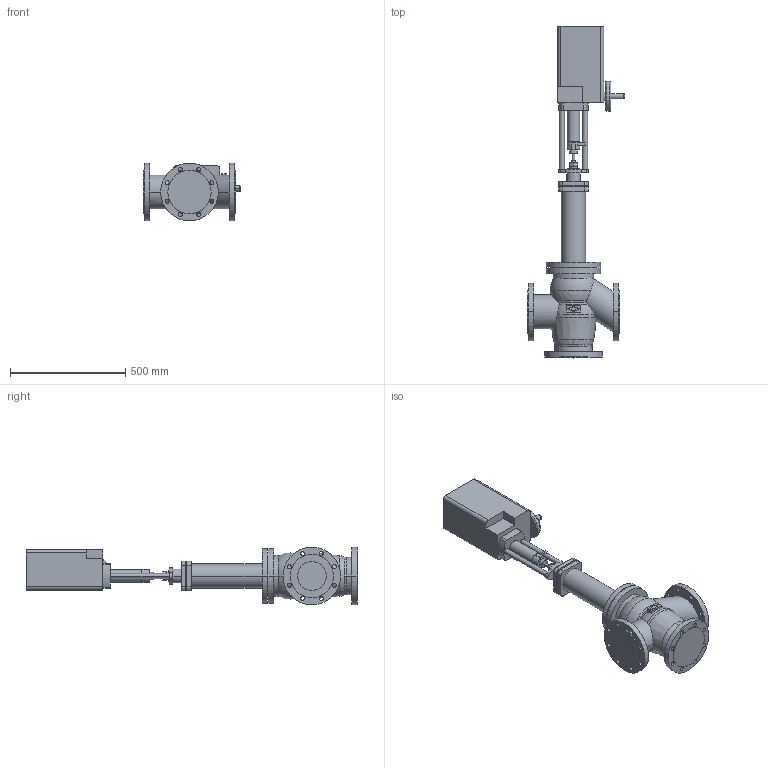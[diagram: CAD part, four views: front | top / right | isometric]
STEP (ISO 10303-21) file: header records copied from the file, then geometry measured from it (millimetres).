
FILE_DESCRIPTION(('OneSpaceDesigner STEP Export'),'2;1');
FILE_NAME('c000002459.stp','2007-01-26T13:17:28',(''),(''),'OneSpace Designer STEP processor for AP214 (Solid Model)','OneSpace Designer 14.00B 27-May-2006 (C) CoCreate Software GmbH','');
FILE_SCHEMA(('AUTOMOTIVE_DESIGN { 1 0 10303 214 1 1 1 1 }'));
Length unit declared in the file: millimetre
Products named in the file (2): 1; 2
Bounding box: 421.6 x 1440.7 x 250 mm (x, y, z)
Volume: 34398796 mm3; surface area: 1327163.9 mm2
Topology: 2 solids, 2 shells, 262 faces, 667 edges, 438 vertices
Faces by surface type: cylinder 136, plane 102, torus 14, sphere 8, cone 2
Entity records: 7410 total; most frequent: CARTESIAN_POINT 1475, ORIENTED_EDGE 1318, DIRECTION 1101, EDGE_CURVE 659, VERTEX_POINT 438, AXIS2_PLACEMENT_3D 401, EDGE_LOOP 347, VECTOR 299
